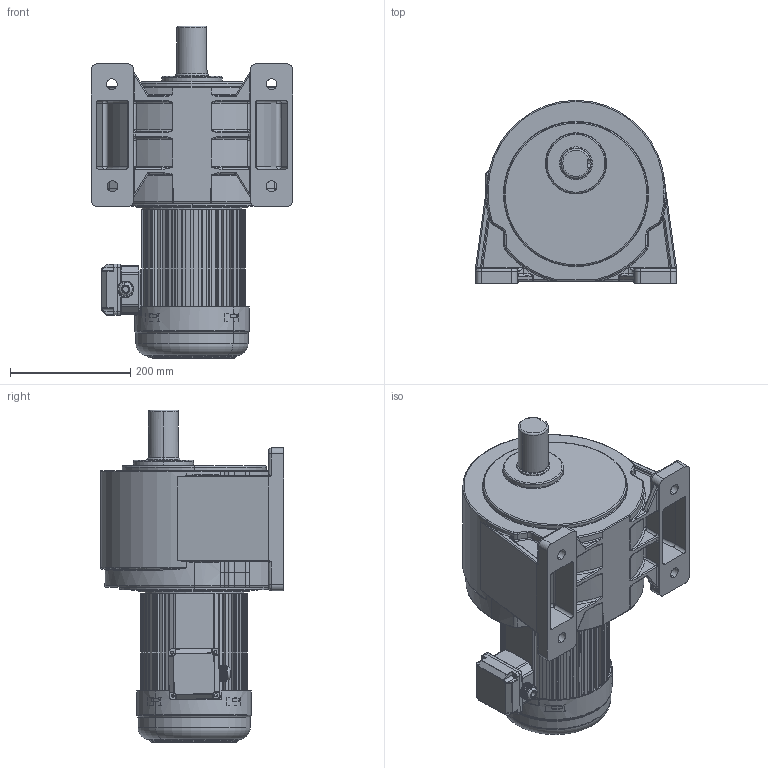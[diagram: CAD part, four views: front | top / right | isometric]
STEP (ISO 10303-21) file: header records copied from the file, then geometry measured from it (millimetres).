
FILE_DESCRIPTION (( 'STEP AP203' ), '1' );
FILE_NAME ('1500W饜6#湍价陬拏宒.STEP', '2020-04-15T08:52:49', ( 'china' ), ( 'china' ), 'SwSTEP 2.0', 'SolidWorks 2019', '' );
FILE_SCHEMA (( 'CONFIG_CONTROL_DESIGN' ));
Length unit declared in the file: millimetre
Products named in the file (8): 諉芛; 1500W6#拏宒眊极; 湍价陬諉盄碟裔; 1500W棠憤迖殤; 1500W儂褲; 1500W饜6#湍价陬拏宒; 瑞欶; 蜊輛綴諉盄碟釱3
Assembly tree (7 placements, depth 2):
  1500W饜6#湍价陬拏宒
    1500W儂褲
    瑞欶
    蜊輛綴諉盄碟釱3
    諉芛
    1500W6#拏宒眊极
    湍价陬諉盄碟裔
    1500W棠憤迖殤
Bounding box: 335 x 305 x 552.95 mm (x, y, z)
Volume: 16644176.4 mm3; surface area: 1192716.4 mm2
Topology: 7 solids, 11 shells, 2409 faces, 6540 edges, 4168 vertices
Faces by surface type: plane 1114, cylinder 942, torus 166, bspline 105, sphere 58, cone 24
Entity records: 89982 total; most frequent: CARTESIAN_POINT 27444, ORIENTED_EDGE 12984, DIRECTION 12886, EDGE_CURVE 6492, AXIS2_PLACEMENT_3D 4447, VERTEX_POINT 4153, VECTOR 3992, LINE 3992
